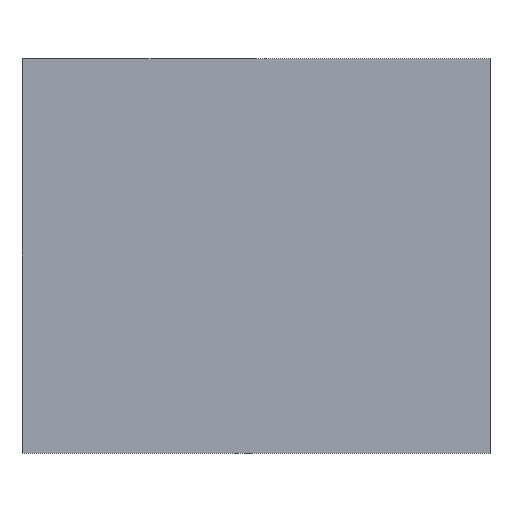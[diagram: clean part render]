
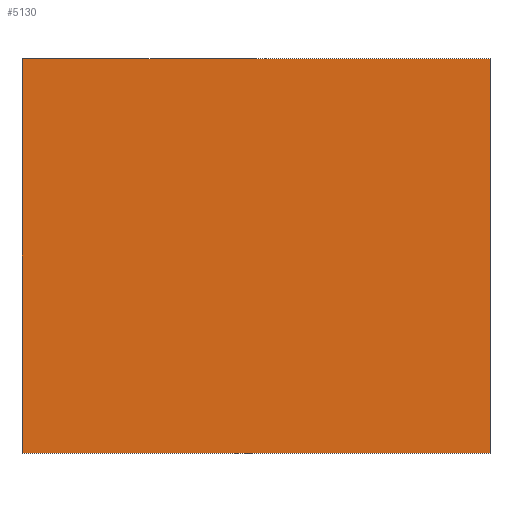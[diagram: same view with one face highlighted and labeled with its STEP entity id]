
A CAD part, front view. The second image highlights one B-rep face of the part: STEP entity #5130.
In plain terms, the highlighted planar face has unit normal (0, -1, 0).
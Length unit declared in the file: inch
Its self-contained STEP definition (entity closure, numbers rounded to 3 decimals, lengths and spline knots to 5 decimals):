
#15 = CARTESIAN_POINT ( 'NONE',  ( -15.955, -12.75, 13.455 ) ) ;
#104 = FACE_OUTER_BOUND ( 'NONE', #2789, .T. ) ;
#314 = LINE ( 'NONE', #4355, #2191 ) ;
#544 = DIRECTION ( 'NONE',  ( 0., 0., 1. ) ) ;
#752 = ORIENTED_EDGE ( 'NONE', *, *, #2501, .T. ) ;
#1312 = VERTEX_POINT ( 'NONE', #2709 ) ;
#1510 = CARTESIAN_POINT ( 'NONE',  ( 15.955, -12.75, -13.455 ) ) ;
#1711 = VERTEX_POINT ( 'NONE', #4851 ) ;
#1755 = LINE ( 'NONE', #3392, #3635 ) ;
#1775 = VERTEX_POINT ( 'NONE', #2937 ) ;
#1890 = VERTEX_POINT ( 'NONE', #4720 ) ;
#1935 = LINE ( 'NONE', #1510, #5166 ) ;
#1961 = ORIENTED_EDGE ( 'NONE', *, *, #2795, .T. ) ;
#2085 = DIRECTION ( 'NONE',  ( -1., 0., 0. ) ) ;
#2191 = VECTOR ( 'NONE', #4334, 39.37008 ) ;
#2401 = EDGE_CURVE ( 'NONE', #1711, #1312, #4515, .T. ) ;
#2501 = EDGE_CURVE ( 'NONE', #1312, #1775, #1755, .T. ) ;
#2586 = DIRECTION ( 'NONE',  ( 0., 0., -1. ) ) ;
#2709 = CARTESIAN_POINT ( 'NONE',  ( -15.955, -12.75, 13.455 ) ) ;
#2789 = EDGE_LOOP ( 'NONE', ( #752, #5060, #1961, #2977 ) ) ;
#2795 = EDGE_CURVE ( 'NONE', #1890, #1711, #1935, .T. ) ;
#2937 = CARTESIAN_POINT ( 'NONE',  ( -15.955, -12.75, -13.455 ) ) ;
#2977 = ORIENTED_EDGE ( 'NONE', *, *, #2401, .T. ) ;
#3128 = EDGE_CURVE ( 'NONE', #1775, #1890, #314, .T. ) ;
#3386 = CARTESIAN_POINT ( 'NONE',  ( -15.455, -12.75, 12.955 ) ) ;
#3392 = CARTESIAN_POINT ( 'NONE',  ( -15.955, -12.75, -13.455 ) ) ;
#3635 = VECTOR ( 'NONE', #2586, 39.37008 ) ;
#4212 = DIRECTION ( 'NONE',  ( 0., 1., 0. ) ) ;
#4290 = AXIS2_PLACEMENT_3D ( 'NONE', #3386, #4212, #544 ) ;
#4334 = DIRECTION ( 'NONE',  ( 1., 0., 0. ) ) ;
#4355 = CARTESIAN_POINT ( 'NONE',  ( -15.955, -12.75, -13.455 ) ) ;
#4515 = LINE ( 'NONE', #15, #4651 ) ;
#4651 = VECTOR ( 'NONE', #2085, 39.37008 ) ;
#4720 = CARTESIAN_POINT ( 'NONE',  ( 15.955, -12.75, -13.455 ) ) ;
#4851 = CARTESIAN_POINT ( 'NONE',  ( 15.955, -12.75, 13.455 ) ) ;
#4860 = DIRECTION ( 'NONE',  ( 0., 0., 1. ) ) ;
#5003 = PLANE ( 'NONE',  #4290 ) ;
#5060 = ORIENTED_EDGE ( 'NONE', *, *, #3128, .T. ) ;
#5130 = ADVANCED_FACE ( 'NONE', ( #104 ), #5003, .F. ) ;
#5166 = VECTOR ( 'NONE', #4860, 39.37008 ) ;
